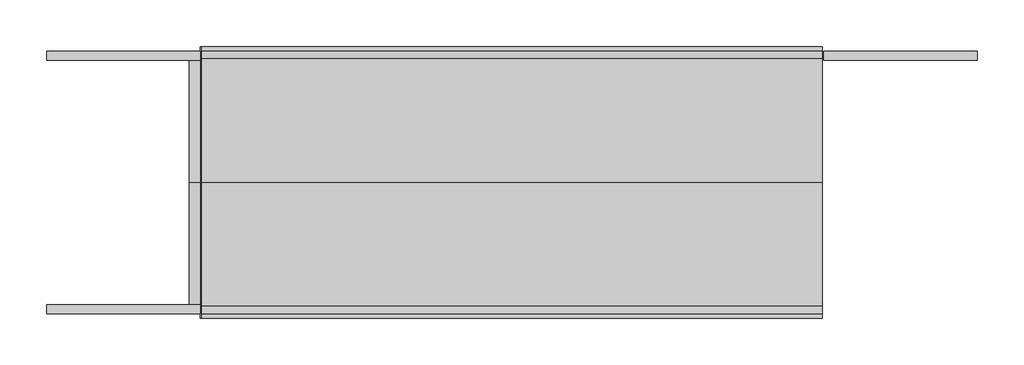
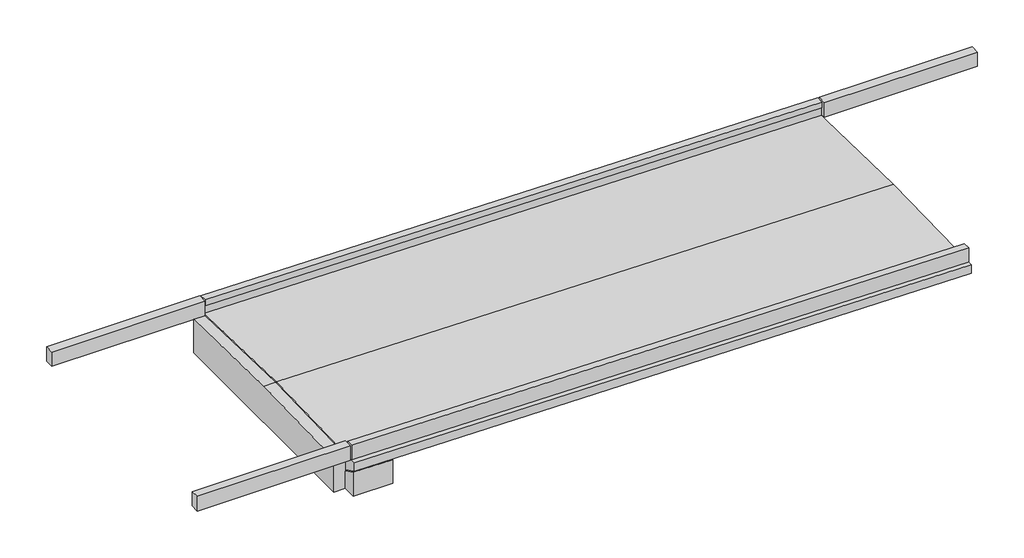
# One storey: 11 proxies.
"""IFC4 building model written with IfcOpenShell, lengths in millimetres."""

import ifcopenshell
import ifcopenshell.guid

model = None  # the IFC model being written
_history = None  # IfcOwnerHistory: only IFC2X3 demands one
_inside = {}  # id of a spatial element -> (the spatial element, [elements in it])
_under = {}  # id of a project, library or spatial element -> (it, [spatial elements below it])
_declared = {}  # id of a project -> (the project, [libraries it declares])
_typed = {}  # id of a type object -> (the type object, [elements of that type])
_made_of = {}  # id of a material, layer set ... -> (it, [elements and type objects made of it])


def new_model(schema):
    """Start an empty IFC model of exactly this schema.

    Asked for "IFC4X3", IfcOpenShell would pick the latest addendum, in which some entities
    have other attributes; the version numbers below select the first issue.
    IFC2X3 requires an IfcOwnerHistory on every rooted entity: one is made here for all.
    """
    global model, _history
    if schema == "IFC4X3":
        model = ifcopenshell.file(schema_version=(4, 3, 0, 0))
    else:
        model = ifcopenshell.file(schema=schema)
    _inside.clear()
    _under.clear()
    _declared.clear()
    _typed.clear()
    _made_of.clear()
    _history = None
    if model.schema == "IFC2X3":
        org = make("IfcOrganization", Name="unknown")
        user = make(
            "IfcPersonAndOrganization",
            ThePerson=make("IfcPerson", FamilyName="unknown"),
            TheOrganization=org,
        )
        app = make(
            "IfcApplication",
            ApplicationDeveloper=org,
            Version="unknown",
            ApplicationFullName="unknown",
            ApplicationIdentifier="unknown",
        )
        _history = make(
            "IfcOwnerHistory",
            OwningUser=user,
            OwningApplication=app,
            ChangeAction="ADDED",
            CreationDate=0,
        )
    return model


def make(cls, **values):
    """One entity of the class cls with the attributes given. An attribute that is None is left unset."""
    return model.create_entity(
        cls, **{name: value for name, value in values.items() if value is not None}
    )


def rooted(cls, **values):
    """An entity with a GlobalId (a new one), such as an element, a storey or a relation."""
    return make(cls, GlobalId=ifcopenshell.guid.new(), OwnerHistory=_history, **values)


def si_unit(unit_type, name, prefix=None):
    """IfcSIUnit, for example si_unit("LENGTHUNIT", "METRE", prefix="MILLI")."""
    return make("IfcSIUnit", UnitType=unit_type, Prefix=prefix, Name=name)


def assignment(units):
    """IfcUnitAssignment: the units of a project."""
    return None if units is None else make("IfcUnitAssignment", Units=units)


def point(xyz):
    """IfcCartesianPoint."""
    return None if xyz is None else make("IfcCartesianPoint", Coordinates=xyz)


def direction(xyz):
    """IfcDirection."""
    return None if xyz is None else make("IfcDirection", DirectionRatios=xyz)


def frame(location, z_axis=None, x_axis=None):
    """IfcAxis2Placement3D, a coordinate frame: its origin and axes. An axis left out is left unset."""
    return make(
        "IfcAxis2Placement3D",
        Location=point(location),
        Axis=direction(z_axis),
        RefDirection=direction(x_axis),
    )


def origin():
    """The frame at (0, 0, 0) with its axes left unset."""
    return frame((0.0, 0.0, 0.0))


def place(relative_to, where):
    """IfcLocalPlacement: puts the frame where relative to a parent placement (None: the world)."""
    return make(
        "IfcLocalPlacement", PlacementRelTo=relative_to, RelativePlacement=where
    )


def context(
    kind, dimensions, precision=None, world=None, true_north=None, identifier=None
):
    """IfcGeometricRepresentationContext, for example the 3D "Model" context."""
    return make(
        "IfcGeometricRepresentationContext",
        ContextIdentifier=identifier,
        ContextType=kind,
        CoordinateSpaceDimension=dimensions,
        Precision=precision,
        WorldCoordinateSystem=world,
        TrueNorth=true_north,
    )


def project(units=None, contexts=None):
    """IfcProject with its units and contexts."""
    return rooted(
        "IfcProject",
        Name="project",
        RepresentationContexts=contexts,
        UnitsInContext=assignment(units),
    )


def spatial(cls, under=None, at=None, **own):
    """A site, building, storey or space (cls), placed at a placement, below another one or the project."""
    s = rooted(cls, ObjectPlacement=at, **own)
    if under is not None:
        _under.setdefault(under.id(), (under, []))[1].append(s)
    return s


def polyline(points):
    """IfcPolyline through the points."""
    return make("IfcPolyline", Points=[point(p) for p in points])


def outline(outer, holes=None, kind="AREA"):
    """IfcArbitraryClosedProfileDef: a profile drawn as a closed curve; with holes, ...WithVoids."""
    if holes is None:
        return make("IfcArbitraryClosedProfileDef", ProfileType=kind, OuterCurve=outer)
    return make(
        "IfcArbitraryProfileDefWithVoids",
        ProfileType=kind,
        OuterCurve=outer,
        InnerCurves=holes,
    )


def extrude(swept, where, along, depth):
    """IfcExtrudedAreaSolid: the profile swept, set in the frame where, extruded along a direction by depth."""
    return make(
        "IfcExtrudedAreaSolid",
        SweptArea=swept,
        Position=where,
        ExtrudedDirection=direction(along),
        Depth=depth,
    )


def faces_of(points, faces, orient=None, outer=None):
    """IfcFace entities. A face is a list of loops; a loop is a list of indices into points, from 0.

    orient and outer hold one flag for each loop. By default every Orientation is true, the
    first loop of a face is its IfcFaceOuterBound and the others are IfcFaceBound.
    """
    made = []
    for i, loops in enumerate(faces):
        bounds = []
        for j, loop in enumerate(loops):
            is_outer = j == 0 if outer is None else outer[i][j]
            bounds.append(
                make(
                    "IfcFaceOuterBound" if is_outer else "IfcFaceBound",
                    Bound=make("IfcPolyLoop", Polygon=[points[k] for k in loop]),
                    Orientation=True if orient is None else orient[i][j],
                )
            )
        made.append(make("IfcFace", Bounds=bounds))
    return made


def faceted_brep(points, faces, orient=None, outer=None, voids=None):
    """IfcFacetedBrep: a solid bounded by flat faces; with voids (closed shells), ...WithVoids."""
    shared = [point(p) for p in points]
    hull = make("IfcClosedShell", CfsFaces=faces_of(shared, faces, orient, outer))
    if voids is None:
        return make("IfcFacetedBrep", Outer=hull)
    return make(
        "IfcFacetedBrepWithVoids",
        Outer=hull,
        Voids=[
            make(cls, CfsFaces=faces_of(shared, fs, o, b)) for cls, fs, o, b in voids
        ],
    )


def shape(context_of_items, identifier, shape_type, items):
    """IfcShapeRepresentation: the items that make up one representation, for example the "Body"."""
    return make(
        "IfcShapeRepresentation",
        ContextOfItems=context_of_items,
        RepresentationIdentifier=identifier,
        RepresentationType=shape_type,
        Items=items,
    )


def source(mapping_origin, context_of_items, identifier, shape_type, items):
    """IfcRepresentationMap: a shape defined once, which mapped items show again and again."""
    return make(
        "IfcRepresentationMap",
        MappingOrigin=mapping_origin,
        MappedRepresentation=shape(context_of_items, identifier, shape_type, items),
    )


def transform(
    local_origin,
    x_axis=None,
    y_axis=None,
    z_axis=None,
    scale=None,
    scale2=None,
    scale3=None,
    uniform=True,
):
    """IfcCartesianTransformationOperator3D, or its non-uniform kind. x_axis, y_axis, z_axis: its Axis1, 2, 3."""
    if uniform:
        return make(
            "IfcCartesianTransformationOperator3D",
            Axis1=direction(x_axis),
            Axis2=direction(y_axis),
            LocalOrigin=point(local_origin),
            Scale=scale,
            Axis3=direction(z_axis),
        )
    return make(
        "IfcCartesianTransformationOperator3DnonUniform",
        Axis1=direction(x_axis),
        Axis2=direction(y_axis),
        LocalOrigin=point(local_origin),
        Scale=scale,
        Axis3=direction(z_axis),
        Scale2=scale2,
        Scale3=scale3,
    )


def mapped(mapping_source, mapping_target):
    """IfcMappedItem: shows the shape of a source again, moved by a transform."""
    return make(
        "IfcMappedItem", MappingSource=mapping_source, MappingTarget=mapping_target
    )


def made_of(thing, what):
    """Note that an element or type object is made of a material, layer set ...; save() writes the relation."""
    if what is not None:
        _made_of.setdefault(what.id(), (what, []))[1].append(thing)
    return thing


def element(
    cls,
    number,
    at=None,
    inside=None,
    cuts=None,
    type_object=None,
    material=None,
    context=None,
    identifier="Body",
    shape_type=None,
    held_by="IfcProductDefinitionShape",
    body=None,
    shapes=None,
    **own,
):
    """One element of the class cls, such as IfcWall. Its Tag is "e" and its number.

    at: its placement. inside: the storey or other place that contains it. cuts: it is an
    opening in that element (IfcRelVoidsElement). A single representation is given by context,
    identifier, shape_type and body (its items); several are given by shapes. held_by: the class
    of the entity that holds the representations. save() writes the other relations.
    """
    e = rooted(cls, Tag="e%d" % number, ObjectPlacement=at, **own)
    if body is not None:
        shapes = [shape(context, identifier, shape_type, body)]
    if shapes is not None:
        e.Representation = make(held_by, Representations=shapes)
    if inside is not None:
        _inside.setdefault(inside.id(), (inside, []))[1].append(e)
    if cuts is not None:
        rooted(
            "IfcRelVoidsElement", RelatingBuildingElement=cuts, RelatedOpeningElement=e
        )
    if type_object is not None:
        _typed.setdefault(type_object.id(), (type_object, []))[1].append(e)
    return made_of(e, material)


def aggregate(whole, parts):
    """IfcRelAggregates: a whole, such as a stair, and the parts it consists of."""
    return rooted("IfcRelAggregates", RelatingObject=whole, RelatedObjects=parts)


def save(model, path):
    """Write the relations noted so far, then the file.

    IfcRelAggregates (storeys below a building ...), IfcRelContainedInSpatialStructure (elements
    in a storey), IfcRelDefinesByType, IfcRelAssociatesMaterial and IfcRelDeclares: one each for
    every whole, place, type object, material and project.
    """
    for whole, parts in _under.values():
        aggregate(whole, parts)
    for where, things in _inside.values():
        rooted(
            "IfcRelContainedInSpatialStructure",
            RelatedElements=things,
            RelatingStructure=where,
        )
    for kind, things in _typed.values():
        rooted("IfcRelDefinesByType", RelatedObjects=things, RelatingType=kind)
    for what, things in _made_of.values():
        rooted("IfcRelAssociatesMaterial", RelatedObjects=things, RelatingMaterial=what)
    for by, libraries in _declared.values():
        rooted("IfcRelDeclares", RelatingContext=by, RelatedDefinitions=libraries)
    model.write(path)


def generic_models_443c6c3d(model_context):
    return source(origin(), model_context, "Body", "Brep", [
        faceted_brep([(-6880.0, -3000.0, 4649.0), (-6880.0, -2350.0, 4324.0), (-6880.0, -2350.0, 4090.0), (-6880.0, -3000.0, 4090.0), (-6000.0, -3000.0, 4639.0), (-6000.0, -3000.0, 4090.0), (-6000.0, -2350.0, 4090.0), (-6000.0, -2350.0, 4314.0)], [[[0, 1, 2, 3]], [[4, 5, 6, 7]], [[5, 4, 0, 3]], [[6, 5, 3, 2]], [[7, 6, 2, 1]], [[4, 7, 1, 0]]]),
    ])


def generic_models_f0762fe5(model_context):
    return source(origin(), model_context, "Body", "SweptSolid", [
        extrude(outline(polyline([(2700.0, 4090.0), (-2700.0, 4090.0), (-2700.0, 4871.0), (0.0, 4946.0), (2700.0, 4871.0), (2700.0, 4090.0)])), frame((-7130.0, 0.0, 0.0), z_axis=(1.0, 0.0, 0.0), x_axis=(0.0, 1.0, 0.0)), (0.0, 0.0, 1.0), 250.0),
    ])


def generic_models_b100e966(model_context):
    return source(origin(), model_context, "Body", "SweptSolid", [
        extrude(outline(polyline([(-1975.0, 4230.0), (-1525.0, 4230.0), (-1525.0, 4110.0), (-1125.0, 4110.0), (-1125.0, 4090.0), (-1975.0, 4090.0), (-1975.0, 4230.0)])), frame((-6550.0, 0.0, 0.0), z_axis=(1.0, 0.0, 0.0), x_axis=(0.0, 1.0, 0.0)), (0.0, 0.0, 1.0), 400.0),
    ])


def generic_models_549524f3(model_context):
    return source(origin(), model_context, "Body", "SweptSolid", [
        extrude(outline(polyline([(1975.0, 4230.0), (1975.0, 4090.0), (1125.0, 4090.0), (1125.0, 4110.0), (1525.0, 4110.0), (1525.0, 4230.0), (1975.0, 4230.0)])), frame((-6550.0, 0.0, 0.0), z_axis=(1.0, 0.0, 0.0), x_axis=(0.0, 1.0, 0.0)), (0.0, 0.0, 1.0), 400.0),
    ])


def generic_models_2c1fe961(model_context):
    return source(origin(), model_context, "Body", "SweptSolid", [
        extrude(outline(polyline([(2700.0, 5208.0), (2900.0, 5216.0), (2900.0, 4871.0), (2700.0, 4871.0), (2700.0, 5208.0)])), frame((-10280.0, 0.0, 0.0), z_axis=(1.0, 0.0, 0.0), x_axis=(0.0, 1.0, 0.0)), (0.0, 0.0, 1.0), 3400.0),
    ])


def generic_models_be09ce97(model_context):
    return source(origin(), model_context, "Body", "SweptSolid", [
        extrude(outline(polyline([(-2700.0, 5208.0), (-2700.0, 4871.0), (-2900.0, 4871.0), (-2900.0, 5216.0), (-2700.0, 5208.0)])), frame((-10280.0, 0.0, 0.0), z_axis=(1.0, 0.0, 0.0), x_axis=(0.0, 1.0, 0.0)), (0.0, 0.0, 1.0), 3400.0),
    ])


def generic_models_2fdfbecb(model_context):
    return source(origin(), model_context, "Body", "SweptSolid", [
        extrude(outline(polyline([(2700.0, 5208.0), (2900.0, 5216.0), (2900.0, 4871.0), (2700.0, 4871.0), (2700.0, 5208.0)])), frame((6880.0, 0.0, 0.0), z_axis=(1.0, 0.0, 0.0), x_axis=(0.0, 1.0, 0.0)), (0.0, 0.0, 1.0), 3400.0),
    ])


def generic_models_845ab030(model_context):
    return source(origin(), model_context, "Body", "Brep", [
        faceted_brep([(6850.0, -3000.0, 4518.0), (6850.0, -2350.0, 4193.0), (6850.0, 2350.0, 4193.0), (6850.0, 3000.0, 4518.0), (6850.0, 3000.0, 4718.0), (6850.0, 0.0, 4793.0), (6850.0, -3000.0, 4718.0), (-6850.0, -3000.0, 4671.0), (-6850.0, -3000.0, 4871.0), (-6850.0, 0.0, 4946.0), (-6850.0, 3000.0, 4871.0), (-6850.0, 3000.0, 4671.0), (-6850.0, 2350.0, 4346.0), (-6850.0, -2350.0, 4346.0)], [[[0, 1, 2, 3, 4, 5, 6]], [[7, 8, 9, 10, 11, 12, 13]], [[7, 13, 1, 0]], [[13, 12, 2, 1]], [[12, 11, 3, 2]], [[11, 10, 4, 3]], [[10, 9, 5, 4]], [[9, 8, 6, 5]], [[8, 7, 0, 6]]]),
    ])


def generic_models_6e7072ef(model_context):
    return source(origin(), model_context, "Body", "Brep", [
        faceted_brep([(-6850.0, -2900.0, 5213.5), (-6850.0, -2740.0, 5207.5), (-6850.0, -2740.0, 5074.5), (-6850.0, -2770.0, 5104.5), (-6850.0, -2770.0, 4876.75), (-6850.0, -2900.0, 4873.5), (6850.0, -2900.0, 5060.5), (6850.0, -2900.0, 4720.5), (6850.0, -2770.0, 4723.75), (6850.0, -2770.0, 4951.5), (6850.0, -2740.0, 4921.5), (6850.0, -2740.0, 5054.5)], [[[0, 1, 2, 3, 4, 5]], [[6, 7, 8, 9, 10, 11]], [[7, 6, 0, 5]], [[8, 7, 5, 4]], [[9, 8, 4, 3]], [[10, 9, 3, 2]], [[11, 10, 2, 1]], [[6, 11, 1, 0]]]),
    ])


def generic_models_ee808e85(model_context):
    return source(origin(), model_context, "Body", "Brep", [
        faceted_brep([(-6850.0, 2900.0, 5213.5), (-6850.0, 2900.0, 4873.5), (-6850.0, 2770.0, 4876.75), (-6850.0, 2770.0, 5104.5), (-6850.0, 2740.0, 5074.5), (-6850.0, 2740.0, 5207.5), (6850.0, 2900.0, 5060.5), (6850.0, 2740.0, 5054.5), (6850.0, 2740.0, 4921.5), (6850.0, 2770.0, 4951.5), (6850.0, 2770.0, 4723.75), (6850.0, 2900.0, 4720.5)], [[[0, 1, 2, 3, 4, 5]], [[6, 7, 8, 9, 10, 11]], [[6, 11, 1, 0]], [[11, 10, 2, 1]], [[10, 9, 3, 2]], [[9, 8, 4, 3]], [[8, 7, 5, 4]], [[7, 6, 0, 5]]]),
    ])


def generic_models_0d386bb0(model_context):
    return source(origin(), model_context, "Body", "Brep", [
        faceted_brep([(-6880.0, 3000.0, 4649.0), (-6880.0, 3000.0, 4090.0), (-6880.0, 2350.0, 4090.0), (-6880.0, 2350.0, 4324.0), (-6000.0, 3000.0, 4639.0), (-6000.0, 2350.0, 4314.0), (-6000.0, 2350.0, 4090.0), (-6000.0, 3000.0, 4090.0)], [[[0, 1, 2, 3]], [[4, 5, 6, 7]], [[4, 7, 1, 0]], [[7, 6, 2, 1]], [[6, 5, 3, 2]], [[5, 4, 0, 3]]]),
    ])


model = new_model("IFC4")

# Units and contexts
model_context = context("Model", 3, world=origin())
ifc_project = project(units=[si_unit("LENGTHUNIT", "METRE", prefix="MILLI")], contexts=[model_context])

# Site, building, storey
site = spatial("IfcSite", under=ifc_project)
building = spatial("IfcBuilding", under=site)
storey = spatial("IfcBuildingStorey", under=building, Name="b - niveau chevêtre", Elevation=4090.0)

# Proxies
placement = place(None, origin())
generic_models_shape = generic_models_443c6c3d(model_context)
element("IfcBuildingElementProxy", 1, Name="Murs caches C0a : Murs caches", ObjectType="Murs caches C0a : Murs caches", at=placement, inside=storey, context=model_context, shape_type="MappedRepresentation", body=[
    mapped(generic_models_shape, transform((0.0, 0.0, 0.0), x_axis=(1.0, 0.0, 0.0), y_axis=(0.0, 1.0, 0.0), z_axis=(0.0, 0.0, 1.0))),
])
generic_models_2_shape = generic_models_f0762fe5(model_context)
element("IfcBuildingElementProxy", 2, Name="mur garde grève C0 : mur garde grève", ObjectType="mur garde grève C0 : mur garde grève", at=placement, inside=storey, context=model_context, shape_type="MappedRepresentation", body=[
    mapped(generic_models_2_shape, transform((0.0, 0.0, 0.0), x_axis=(1.0, 0.0, 0.0), y_axis=(0.0, 1.0, 0.0), z_axis=(0.0, 0.0, 1.0))),
])
generic_models_3_shape = generic_models_b100e966(model_context)
element("IfcBuildingElementProxy", 3, Name="bossages appuis C0a : bossages appuis", ObjectType="bossages appuis C0a : bossages appuis", at=placement, inside=storey, context=model_context, shape_type="MappedRepresentation", body=[
    mapped(generic_models_3_shape, transform((0.0, 0.0, 0.0), x_axis=(1.0, 0.0, 0.0), y_axis=(0.0, 1.0, 0.0), z_axis=(0.0, 0.0, 1.0))),
])
generic_models_4_shape = generic_models_549524f3(model_context)
element("IfcBuildingElementProxy", 4, Name="bossages appuis C0b : bossages appuis", ObjectType="bossages appuis C0b : bossages appuis", at=placement, inside=storey, context=model_context, shape_type="MappedRepresentation", body=[
    mapped(generic_models_4_shape, transform((0.0, 0.0, 0.0), x_axis=(1.0, 0.0, 0.0), y_axis=(0.0, 1.0, 0.0), z_axis=(0.0, 0.0, 1.0))),
])
generic_models_5_shape = generic_models_2c1fe961(model_context)
element("IfcBuildingElementProxy", 5, Name="Tête de mur C0b : tête de mur", ObjectType="Tête de mur C0b : tête de mur", at=placement, inside=storey, context=model_context, shape_type="MappedRepresentation", body=[
    mapped(generic_models_5_shape, transform((0.0, 0.0, 0.0), x_axis=(1.0, 0.0, 0.0), y_axis=(0.0, 1.0, 0.0), z_axis=(0.0, 0.0, 1.0))),
])
generic_models_6_shape = generic_models_be09ce97(model_context)
element("IfcBuildingElementProxy", 6, Name="Tête de mur C0a : tête de mur", ObjectType="Tête de mur C0a : tête de mur", at=placement, inside=storey, context=model_context, shape_type="MappedRepresentation", body=[
    mapped(generic_models_6_shape, transform((0.0, 0.0, 0.0), x_axis=(1.0, 0.0, 0.0), y_axis=(0.0, 1.0, 0.0), z_axis=(0.0, 0.0, 1.0))),
])
generic_models_7_shape = generic_models_2fdfbecb(model_context)
element("IfcBuildingElementProxy", 7, Name="Tête de mur C1b : tête de mur", ObjectType="Tête de mur C1b : tête de mur", at=placement, inside=storey, context=model_context, shape_type="MappedRepresentation", body=[
    mapped(generic_models_7_shape, transform((0.0, 0.0, -153.0), x_axis=(1.0, 0.0, 0.0), y_axis=(0.0, 1.0, 0.0), z_axis=(0.0, 0.0, 1.0))),
])
generic_models_8_shape = generic_models_845ab030(model_context)
element("IfcBuildingElementProxy", 8, Name="Tablier : Tablier", ObjectType="Tablier : Tablier", at=placement, inside=storey, context=model_context, shape_type="MappedRepresentation", body=[
    mapped(generic_models_8_shape, transform((0.0, 0.0, 0.0), x_axis=(1.0, 0.0, 0.0), y_axis=(0.0, 1.0, 0.0), z_axis=(0.0, 0.0, 1.0))),
])
generic_models_9_shape = generic_models_6e7072ef(model_context)
element("IfcBuildingElementProxy", 9, Name="contre-corniche amont : contre-corniche", ObjectType="contre-corniche amont : contre-corniche", at=placement, inside=storey, context=model_context, shape_type="MappedRepresentation", body=[
    mapped(generic_models_9_shape, transform((0.0, 0.0, 0.0), x_axis=(1.0, 0.0, 0.0), y_axis=(0.0, 1.0, 0.0), z_axis=(0.0, 0.0, 1.0))),
])
generic_models_10_shape = generic_models_ee808e85(model_context)
element("IfcBuildingElementProxy", 10, Name="contre-corniche aval : contre-corniche", ObjectType="contre-corniche aval : contre-corniche", at=placement, inside=storey, context=model_context, shape_type="MappedRepresentation", body=[
    mapped(generic_models_10_shape, transform((0.0, 0.0, 0.0), x_axis=(1.0, 0.0, 0.0), y_axis=(0.0, 1.0, 0.0), z_axis=(0.0, 0.0, 1.0))),
])
generic_models_11_shape = generic_models_0d386bb0(model_context)
element("IfcBuildingElementProxy", 11, Name="Murs caches C0b : Murs caches", ObjectType="Murs caches C0b : Murs caches", at=placement, inside=storey, context=model_context, shape_type="MappedRepresentation", body=[
    mapped(generic_models_11_shape, transform((0.0, 0.0, 0.0), x_axis=(1.0, 0.0, 0.0), y_axis=(0.0, 1.0, 0.0), z_axis=(0.0, 0.0, 1.0))),
])

save(model, "model.ifc")
